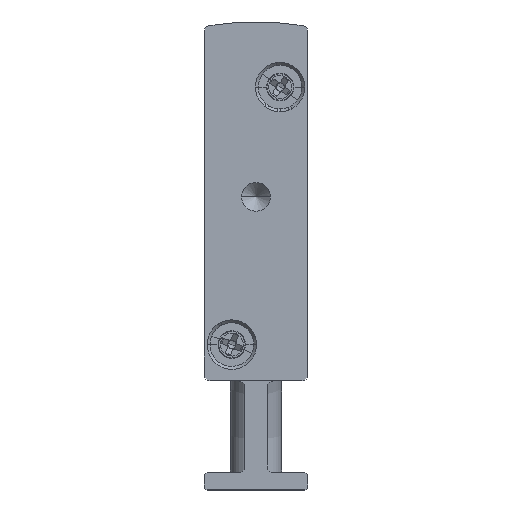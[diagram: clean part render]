
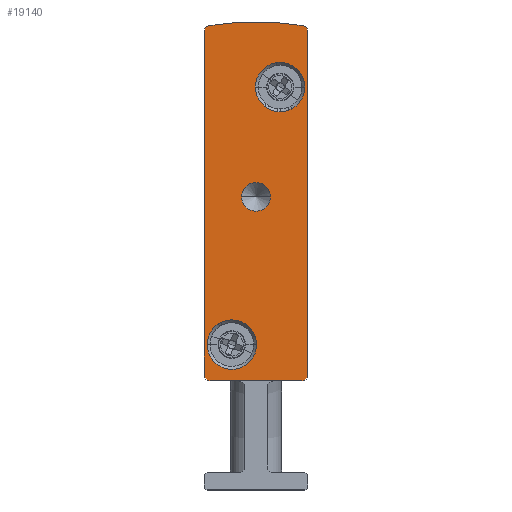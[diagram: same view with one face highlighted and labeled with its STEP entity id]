
A CAD part, front view. The second image highlights one B-rep face of the part: STEP entity #19140.
In plain terms, the highlighted planar face has unit normal (0, -1, 0).
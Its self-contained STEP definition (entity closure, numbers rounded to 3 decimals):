
#123 = CARTESIAN_POINT ( 'NONE',  ( 3.25, -2.5, 25.5 ) ) ;
#177 = DIRECTION ( 'NONE',  ( 0., 1., 0. ) ) ;
#197 = EDGE_CURVE ( 'NONE', #13201, #17451, #12001, .T. ) ;
#558 = DIRECTION ( 'NONE',  ( -1., 0., 0. ) ) ;
#702 = VERTEX_POINT ( 'NONE', #12779 ) ;
#703 = DIRECTION ( 'NONE',  ( 1., 0., 0. ) ) ;
#770 = AXIS2_PLACEMENT_3D ( 'NONE', #7376, #11962, #12018 ) ;
#850 = EDGE_CURVE ( 'NONE', #11217, #11139, #16473, .T. ) ;
#870 = AXIS2_PLACEMENT_3D ( 'NONE', #3518, #14700, #558 ) ;
#1197 = CARTESIAN_POINT ( 'NONE',  ( 2.4, -2.5, 12.65 ) ) ;
#1261 = DIRECTION ( 'NONE',  ( 0., -1., 0. ) ) ;
#1482 = PLANE ( 'NONE',  #16679 ) ;
#1616 = CIRCLE ( 'NONE', #18513, 23.658 ) ;
#1856 = ORIENTED_EDGE ( 'NONE', *, *, #2584, .F. ) ;
#1922 = EDGE_LOOP ( 'NONE', ( #19674, #16285 ) ) ;
#1986 = CARTESIAN_POINT ( 'NONE',  ( 8.75, -2.5, 35.05 ) ) ;
#2108 = CARTESIAN_POINT ( 'NONE',  ( 9., -2.5, 10. ) ) ;
#2288 = EDGE_LOOP ( 'NONE', ( #9078, #9463 ) ) ;
#2397 = VERTEX_POINT ( 'NONE', #17900 ) ;
#2584 = EDGE_CURVE ( 'NONE', #17564, #11217, #14768, .T. ) ;
#2633 = DIRECTION ( 'NONE',  ( 0., 1., 0. ) ) ;
#2787 = EDGE_CURVE ( 'NONE', #6285, #9928, #18502, .T. ) ;
#2884 = FACE_BOUND ( 'NONE', #2288, .T. ) ;
#2927 = EDGE_CURVE ( 'NONE', #702, #2397, #9711, .T. ) ;
#3229 = CARTESIAN_POINT ( 'NONE',  ( 2.4, -2.5, 12.65 ) ) ;
#3518 = CARTESIAN_POINT ( 'NONE',  ( 0.5, -2.5, 39.902 ) ) ;
#3555 = ORIENTED_EDGE ( 'NONE', *, *, #17593, .F. ) ;
#3760 = LINE ( 'NONE', #18368, #4916 ) ;
#3829 = DIRECTION ( 'NONE',  ( 0., 1., 0. ) ) ;
#3861 = DIRECTION ( 'NONE',  ( 0., -1., 0. ) ) ;
#3915 = DIRECTION ( 'NONE',  ( 0., 1., 0. ) ) ;
#4155 = AXIS2_PLACEMENT_3D ( 'NONE', #1197, #1261, #15058 ) ;
#4320 = EDGE_CURVE ( 'NONE', #9792, #5184, #6500, .T. ) ;
#4553 = AXIS2_PLACEMENT_3D ( 'NONE', #8796, #2633, #5704 ) ;
#4576 = CIRCLE ( 'NONE', #4155, 2.15 ) ;
#4596 = AXIS2_PLACEMENT_3D ( 'NONE', #14581, #3915, #14517 ) ;
#4825 = DIRECTION ( 'NONE',  ( -1., 0., 0. ) ) ;
#4916 = VECTOR ( 'NONE', #4825, 1000. ) ;
#5070 = CIRCLE ( 'NONE', #14985, 2.15 ) ;
#5184 = VERTEX_POINT ( 'NONE', #6093 ) ;
#5704 = DIRECTION ( 'NONE',  ( -1., 0., 0. ) ) ;
#5721 = DIRECTION ( 'NONE',  ( 0., 1., 0. ) ) ;
#5777 = FACE_BOUND ( 'NONE', #1922, .T. ) ;
#5962 = CIRCLE ( 'NONE', #7802, 0.5 ) ;
#6093 = CARTESIAN_POINT ( 'NONE',  ( 4.45, -2.5, 35.05 ) ) ;
#6285 = VERTEX_POINT ( 'NONE', #123 ) ;
#6500 = CIRCLE ( 'NONE', #16631, 2.15 ) ;
#6826 = ORIENTED_EDGE ( 'NONE', *, *, #7064, .F. ) ;
#6882 = DIRECTION ( 'NONE',  ( -1., 0., 0. ) ) ;
#7044 = AXIS2_PLACEMENT_3D ( 'NONE', #3229, #16990, #10959 ) ;
#7064 = EDGE_CURVE ( 'NONE', #8646, #13005, #1616, .T. ) ;
#7376 = CARTESIAN_POINT ( 'NONE',  ( 4.5, -2.5, 25.5 ) ) ;
#7802 = AXIS2_PLACEMENT_3D ( 'NONE', #11336, #14335, #6882 ) ;
#7893 = VECTOR ( 'NONE', #16366, 1000. ) ;
#8148 = EDGE_LOOP ( 'NONE', ( #9325, #16339 ) ) ;
#8269 = CARTESIAN_POINT ( 'NONE',  ( 4.5, -2.5, 17.092 ) ) ;
#8447 = ORIENTED_EDGE ( 'NONE', *, *, #13012, .F. ) ;
#8646 = VERTEX_POINT ( 'NONE', #9752 ) ;
#8740 = CARTESIAN_POINT ( 'NONE',  ( 6.6, -2.5, 35.05 ) ) ;
#8796 = CARTESIAN_POINT ( 'NONE',  ( 4.5, -2.5, 25.5 ) ) ;
#9078 = ORIENTED_EDGE ( 'NONE', *, *, #2927, .F. ) ;
#9147 = DIRECTION ( 'NONE',  ( -1., 0., 0. ) ) ;
#9325 = ORIENTED_EDGE ( 'NONE', *, *, #2787, .T. ) ;
#9463 = ORIENTED_EDGE ( 'NONE', *, *, #12414, .F. ) ;
#9472 = CARTESIAN_POINT ( 'NONE',  ( 0., -2.5, 39.902 ) ) ;
#9711 = CIRCLE ( 'NONE', #7044, 2.15 ) ;
#9752 = CARTESIAN_POINT ( 'NONE',  ( 0.408, -2.5, 40.393 ) ) ;
#9792 = VERTEX_POINT ( 'NONE', #1986 ) ;
#9928 = VERTEX_POINT ( 'NONE', #11506 ) ;
#10138 = EDGE_LOOP ( 'NONE', ( #10615, #16417, #1856, #8447, #11596, #16215, #3555, #6826 ) ) ;
#10161 = CARTESIAN_POINT ( 'NONE',  ( 6.6, -2.5, 35.05 ) ) ;
#10349 = DIRECTION ( 'NONE',  ( 0., -1., 0. ) ) ;
#10615 = ORIENTED_EDGE ( 'NONE', *, *, #14170, .F. ) ;
#10620 = CIRCLE ( 'NONE', #4553, 1.25 ) ;
#10959 = DIRECTION ( 'NONE',  ( 1., 0., 0. ) ) ;
#11139 = VERTEX_POINT ( 'NONE', #9472 ) ;
#11217 = VERTEX_POINT ( 'NONE', #12341 ) ;
#11336 = CARTESIAN_POINT ( 'NONE',  ( 8.5, -2.5, 39.902 ) ) ;
#11415 = EDGE_CURVE ( 'NONE', #13162, #13201, #16084, .T. ) ;
#11506 = CARTESIAN_POINT ( 'NONE',  ( 5.75, -2.5, 25.5 ) ) ;
#11596 = ORIENTED_EDGE ( 'NONE', *, *, #197, .F. ) ;
#11751 = CIRCLE ( 'NONE', #870, 0.5 ) ;
#11765 = DIRECTION ( 'NONE',  ( 0., 0., -1. ) ) ;
#11822 = EDGE_CURVE ( 'NONE', #5184, #9792, #5070, .T. ) ;
#11837 = CARTESIAN_POINT ( 'NONE',  ( 0., -2.5, 39.902 ) ) ;
#11962 = DIRECTION ( 'NONE',  ( 0., 1., 0. ) ) ;
#12001 = CIRCLE ( 'NONE', #12796, 0.5 ) ;
#12018 = DIRECTION ( 'NONE',  ( -1., 0., 0. ) ) ;
#12193 = FACE_BOUND ( 'NONE', #8148, .T. ) ;
#12341 = CARTESIAN_POINT ( 'NONE',  ( 0., -2.5, 10. ) ) ;
#12414 = EDGE_CURVE ( 'NONE', #2397, #702, #4576, .T. ) ;
#12680 = FACE_OUTER_BOUND ( 'NONE', #10138, .T. ) ;
#12779 = CARTESIAN_POINT ( 'NONE',  ( 4.55, -2.5, 12.65 ) ) ;
#12796 = AXIS2_PLACEMENT_3D ( 'NONE', #19365, #5721, #16361 ) ;
#13005 = VERTEX_POINT ( 'NONE', #15314 ) ;
#13012 = EDGE_CURVE ( 'NONE', #17451, #17564, #3760, .T. ) ;
#13162 = VERTEX_POINT ( 'NONE', #17343 ) ;
#13201 = VERTEX_POINT ( 'NONE', #2108 ) ;
#13341 = EDGE_CURVE ( 'NONE', #9928, #6285, #10620, .T. ) ;
#13825 = CARTESIAN_POINT ( 'NONE',  ( 0.5, -2.5, 39.902 ) ) ;
#13946 = VECTOR ( 'NONE', #11765, 1000. ) ;
#14170 = EDGE_CURVE ( 'NONE', #11139, #8646, #11751, .T. ) ;
#14335 = DIRECTION ( 'NONE',  ( 0., 1., 0. ) ) ;
#14493 = DIRECTION ( 'NONE',  ( -1., 0., 0. ) ) ;
#14517 = DIRECTION ( 'NONE',  ( -1., 0., 0. ) ) ;
#14581 = CARTESIAN_POINT ( 'NONE',  ( 0.5, -2.5, 10. ) ) ;
#14700 = DIRECTION ( 'NONE',  ( 0., 1., 0. ) ) ;
#14768 = CIRCLE ( 'NONE', #4596, 0.5 ) ;
#14985 = AXIS2_PLACEMENT_3D ( 'NONE', #8740, #10349, #703 ) ;
#15058 = DIRECTION ( 'NONE',  ( 1., 0., 0. ) ) ;
#15314 = CARTESIAN_POINT ( 'NONE',  ( 8.592, -2.5, 40.393 ) ) ;
#15411 = CARTESIAN_POINT ( 'NONE',  ( 0.5, -2.5, 9.5 ) ) ;
#16084 = LINE ( 'NONE', #17675, #13946 ) ;
#16215 = ORIENTED_EDGE ( 'NONE', *, *, #11415, .F. ) ;
#16285 = ORIENTED_EDGE ( 'NONE', *, *, #11822, .F. ) ;
#16339 = ORIENTED_EDGE ( 'NONE', *, *, #13341, .T. ) ;
#16361 = DIRECTION ( 'NONE',  ( -1., 0., 0. ) ) ;
#16366 = DIRECTION ( 'NONE',  ( 0., 0., 1. ) ) ;
#16417 = ORIENTED_EDGE ( 'NONE', *, *, #850, .F. ) ;
#16473 = LINE ( 'NONE', #11837, #7893 ) ;
#16631 = AXIS2_PLACEMENT_3D ( 'NONE', #10161, #3861, #17669 ) ;
#16679 = AXIS2_PLACEMENT_3D ( 'NONE', #13825, #177, #9147 ) ;
#16838 = CARTESIAN_POINT ( 'NONE',  ( 8.5, -2.5, 9.5 ) ) ;
#16990 = DIRECTION ( 'NONE',  ( 0., -1., 0. ) ) ;
#17343 = CARTESIAN_POINT ( 'NONE',  ( 9., -2.5, 39.902 ) ) ;
#17451 = VERTEX_POINT ( 'NONE', #16838 ) ;
#17564 = VERTEX_POINT ( 'NONE', #15411 ) ;
#17593 = EDGE_CURVE ( 'NONE', #13005, #13162, #5962, .T. ) ;
#17669 = DIRECTION ( 'NONE',  ( 1., 0., 0. ) ) ;
#17675 = CARTESIAN_POINT ( 'NONE',  ( 9., -2.5, 39.902 ) ) ;
#17900 = CARTESIAN_POINT ( 'NONE',  ( 0.25, -2.5, 12.65 ) ) ;
#18368 = CARTESIAN_POINT ( 'NONE',  ( 0.5, -2.5, 9.5 ) ) ;
#18502 = CIRCLE ( 'NONE', #770, 1.25 ) ;
#18513 = AXIS2_PLACEMENT_3D ( 'NONE', #8269, #3829, #14493 ) ;
#19140 = ADVANCED_FACE ( 'NONE', ( #5777, #2884, #12680, #12193 ), #1482, .F. ) ;
#19365 = CARTESIAN_POINT ( 'NONE',  ( 8.5, -2.5, 10. ) ) ;
#19674 = ORIENTED_EDGE ( 'NONE', *, *, #4320, .F. ) ;
